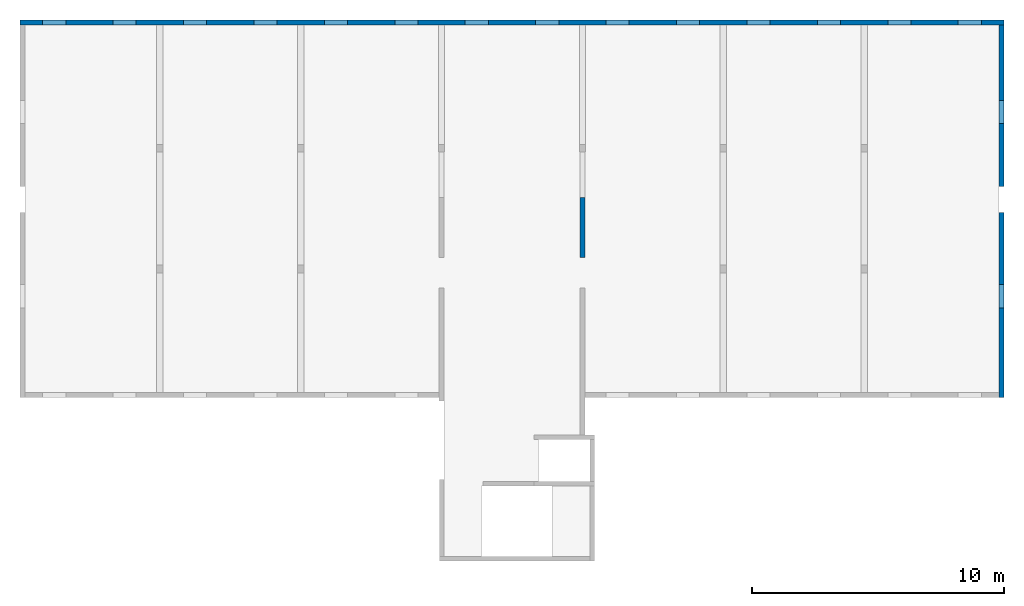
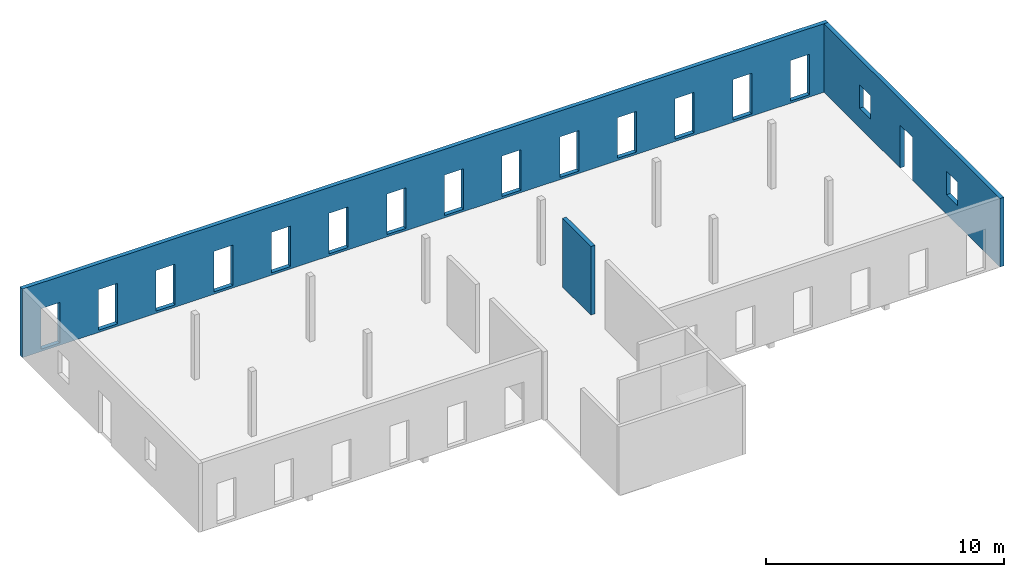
# One storey, part 2 of 2: 3 walls, 17 openings.
"""IFC2X3 building model written with IfcOpenShell, lengths in metres."""

from ifc_helpers import new_model, entity, si_unit, converted_unit, derived_unit, direction, frame, frame_2d, origin, origin_2d_with_axis, place, context, subcontext, project, spatial, rectangle, extrude, material, layer, layer_set, layer_usage, type_object, element, save


model = new_model("IFC2X3")

# Units and contexts
model_context = context("Model", 3, precision=1e-05, world=origin(), true_north=direction((6.12303176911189e-17, 1.0)))
context_of_model = context(None, 3, precision=1e-05, world=origin(), true_north=direction((6.12303176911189e-17, 1.0)))
body_context = subcontext(model_context, "Body", "Model", "MODEL_VIEW")
ifc_project = project(units=[si_unit("LENGTHUNIT", "METRE"), si_unit("AREAUNIT", "SQUARE_METRE"), si_unit("VOLUMEUNIT", "CUBIC_METRE"), converted_unit("PLANEANGLEUNIT", "DEGREE", entity("IfcRatioMeasure", 0.0174532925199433), si_unit("PLANEANGLEUNIT", "RADIAN"), dimensions=[0, 0, 0, 0, 0, 0, 0]), si_unit("MASSUNIT", "GRAM", prefix="KILO"), si_unit("TIMEUNIT", "SECOND"), si_unit("FREQUENCYUNIT", "HERTZ"), si_unit("THERMODYNAMICTEMPERATUREUNIT", "DEGREE_CELSIUS"), derived_unit("THERMALTRANSMITTANCEUNIT", [(si_unit("MASSUNIT", "GRAM", prefix="KILO"), 1), (si_unit("THERMODYNAMICTEMPERATUREUNIT", "KELVIN"), -1), (si_unit("TIMEUNIT", "SECOND"), -3)]), derived_unit("VOLUMETRICFLOWRATEUNIT", [(si_unit("LENGTHUNIT", "METRE"), 3), (si_unit("TIMEUNIT", "SECOND"), -1)]), si_unit("ELECTRICCURRENTUNIT", "AMPERE"), si_unit("ELECTRICVOLTAGEUNIT", "VOLT"), si_unit("POWERUNIT", "WATT"), si_unit("FORCEUNIT", "NEWTON"), si_unit("ILLUMINANCEUNIT", "LUX"), si_unit("LUMINOUSFLUXUNIT", "LUMEN"), si_unit("LUMINOUSINTENSITYUNIT", "CANDELA"), si_unit("PRESSUREUNIT", "PASCAL")], contexts=[model_context, context_of_model])

# Site, building, storey
site_placement = place(None, origin())
site = spatial("IfcSite", under=ifc_project, at=site_placement, Name="Default", CompositionType="ELEMENT")
building_placement = place(site_placement, origin())
building = spatial("IfcBuilding", under=site, at=building_placement, Name="BATIMENT 1", CompositionType="ELEMENT")
storey_placement = place(building_placement, frame((0.0, 0.0, 3.51999999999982)))
storey = spatial("IfcBuildingStorey", under=building, at=storey_placement, Name="Niveau 1", CompositionType="ELEMENT", Elevation=3.51999999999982)

# Wall, openings
ifc_material = material(Name="AEC Béton, C25/30")
ifc_layer = layer(ifc_material, 0.2)
ifc_layer_set = layer_set([ifc_layer], Name="Mur de base:BG VOILE BA 0.20 C25/30")
ifc_layer_usage_1 = layer_usage(ifc_layer_set, "AXIS2", "NEGATIVE", 0.1)
wall_type = type_object("IfcWallType", Name="Mur de base:BG VOILE BA 0.20 C25/30", PredefinedType="STANDARD", material=ifc_layer_set)
wall_1_placement = place(storey_placement, frame((-19.7636530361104, 8.482537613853, 0.0)))
wall_1 = element("IfcWallStandardCase", 1, at=wall_1_placement, inside=storey, type_object=wall_type, material=ifc_layer_usage_1, Name="Mur de base:BG VOILE BA 0.20 C25/30", ObjectType="Mur de base:BG VOILE BA 0.20 C25/30", context=body_context, shape_type="SweptSolid", body=[
    extrude(rectangle(XDim=39.12, YDim=0.2, at=frame_2d((19.56, 3.19189119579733e-16), x_axis=(-1.0, 0.0))), origin(), (0.0, 0.0, 1.0), 3.51999999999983),
])
opening_1_placement = place(wall_1_placement, origin())
element("IfcOpeningElement", 2, at=opening_1_placement, cuts=wall_1, Name="Mur de base:BG VOILE BA 0.20 C25/30", ObjectType="Opening", context=body_context, shape_type="SweptSolid", body=[
    extrude(rectangle(XDim=2.08, YDim=0.919999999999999, at=origin_2d_with_axis()), frame((1.36, -0.1, 1.15999999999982), z_axis=(0.0, 1.0, 0.0), x_axis=(0.0, 0.0, -1.0)), (0.0, 0.0, 1.0), 0.2),
])
opening_2_placement = place(wall_1_placement, origin())
element("IfcOpeningElement", 3, at=opening_2_placement, cuts=wall_1, Name="Mur de base:BG VOILE BA 0.20 C25/30", ObjectType="Opening", context=body_context, shape_type="SweptSolid", body=[
    extrude(rectangle(XDim=2.08, YDim=0.919999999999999, at=origin_2d_with_axis()), frame((4.16, -0.1, 1.15999999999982), z_axis=(0.0, 1.0, 0.0), x_axis=(0.0, 0.0, -1.0)), (0.0, 0.0, 1.0), 0.2),
])
opening_3_placement = place(wall_1_placement, origin())
element("IfcOpeningElement", 4, at=opening_3_placement, cuts=wall_1, Name="Mur de base:BG VOILE BA 0.20 C25/30", ObjectType="Opening", context=body_context, shape_type="SweptSolid", body=[
    extrude(rectangle(XDim=2.08, YDim=0.919999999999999, at=origin_2d_with_axis()), frame((6.95999999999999, -0.1, 1.15999999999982), z_axis=(0.0, 1.0, 0.0), x_axis=(0.0, 0.0, -1.0)), (0.0, 0.0, 1.0), 0.2),
])
opening_4_placement = place(wall_1_placement, origin())
element("IfcOpeningElement", 5, at=opening_4_placement, cuts=wall_1, Name="Mur de base:BG VOILE BA 0.20 C25/30", ObjectType="Opening", context=body_context, shape_type="SweptSolid", body=[
    extrude(rectangle(XDim=2.08, YDim=0.919999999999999, at=origin_2d_with_axis()), frame((9.75999999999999, -0.1, 1.15999999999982), z_axis=(0.0, 1.0, 0.0), x_axis=(0.0, 0.0, -1.0)), (0.0, 0.0, 1.0), 0.2),
])
opening_5_placement = place(wall_1_placement, origin())
element("IfcOpeningElement", 6, at=opening_5_placement, cuts=wall_1, Name="Mur de base:BG VOILE BA 0.20 C25/30", ObjectType="Opening", context=body_context, shape_type="SweptSolid", body=[
    extrude(rectangle(XDim=2.08, YDim=0.919999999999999, at=origin_2d_with_axis()), frame((12.56, -0.0999999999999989, 1.15999999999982), z_axis=(0.0, 1.0, 0.0), x_axis=(0.0, 0.0, -1.0)), (0.0, 0.0, 1.0), 0.2),
])
opening_6_placement = place(wall_1_placement, origin())
element("IfcOpeningElement", 7, at=opening_6_placement, cuts=wall_1, Name="Mur de base:BG VOILE BA 0.20 C25/30", ObjectType="Opening", context=body_context, shape_type="SweptSolid", body=[
    extrude(rectangle(XDim=2.08, YDim=0.919999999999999, at=origin_2d_with_axis()), frame((15.36, -0.0999999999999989, 1.15999999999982), z_axis=(0.0, 1.0, 0.0), x_axis=(0.0, 0.0, -1.0)), (0.0, 0.0, 1.0), 0.2),
])
opening_7_placement = place(wall_1_placement, origin())
element("IfcOpeningElement", 8, at=opening_7_placement, cuts=wall_1, Name="Mur de base:BG VOILE BA 0.20 C25/30", ObjectType="Opening", context=body_context, shape_type="SweptSolid", body=[
    extrude(rectangle(XDim=2.08, YDim=0.919999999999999, at=origin_2d_with_axis()), frame((18.16, -0.0999999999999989, 1.15999999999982), z_axis=(0.0, 1.0, 0.0), x_axis=(0.0, 0.0, -1.0)), (0.0, 0.0, 1.0), 0.2),
])
opening_8_placement = place(wall_1_placement, origin())
element("IfcOpeningElement", 9, at=opening_8_placement, cuts=wall_1, Name="Mur de base:BG VOILE BA 0.20 C25/30", ObjectType="Opening", context=body_context, shape_type="SweptSolid", body=[
    extrude(rectangle(XDim=2.08, YDim=0.919999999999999, at=frame_2d((0.0, -8.32667268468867e-17), x_axis=(1.0, 0.0))), frame((20.96, -0.0999999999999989, 1.15999999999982), z_axis=(0.0, 1.0, 0.0), x_axis=(0.0, 0.0, -1.0)), (0.0, 0.0, 1.0), 0.2),
])
opening_9_placement = place(wall_1_placement, origin())
element("IfcOpeningElement", 10, at=opening_9_placement, cuts=wall_1, Name="Mur de base:BG VOILE BA 0.20 C25/30", ObjectType="Opening", context=body_context, shape_type="SweptSolid", body=[
    extrude(rectangle(XDim=2.08, YDim=0.919999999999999, at=origin_2d_with_axis()), frame((23.76, -0.0999999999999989, 1.15999999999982), z_axis=(0.0, 1.0, 0.0), x_axis=(0.0, 0.0, -1.0)), (0.0, 0.0, 1.0), 0.2),
])
opening_10_placement = place(wall_1_placement, origin())
element("IfcOpeningElement", 11, at=opening_10_placement, cuts=wall_1, Name="Mur de base:BG VOILE BA 0.20 C25/30", ObjectType="Opening", context=body_context, shape_type="SweptSolid", body=[
    extrude(rectangle(XDim=2.08, YDim=0.919999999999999, at=origin_2d_with_axis()), frame((26.56, -0.0999999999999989, 1.15999999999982), z_axis=(0.0, 1.0, 0.0), x_axis=(0.0, 0.0, -1.0)), (0.0, 0.0, 1.0), 0.2),
])
opening_11_placement = place(wall_1_placement, origin())
element("IfcOpeningElement", 12, at=opening_11_placement, cuts=wall_1, Name="Mur de base:BG VOILE BA 0.20 C25/30", ObjectType="Opening", context=body_context, shape_type="SweptSolid", body=[
    extrude(rectangle(XDim=2.08, YDim=0.919999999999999, at=origin_2d_with_axis()), frame((29.36, -0.1, 1.15999999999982), z_axis=(0.0, 1.0, 0.0), x_axis=(0.0, 0.0, -1.0)), (0.0, 0.0, 1.0), 0.2),
])
opening_12_placement = place(wall_1_placement, origin())
element("IfcOpeningElement", 13, at=opening_12_placement, cuts=wall_1, Name="Mur de base:BG VOILE BA 0.20 C25/30", ObjectType="Opening", context=body_context, shape_type="SweptSolid", body=[
    extrude(rectangle(XDim=2.08, YDim=0.919999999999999, at=origin_2d_with_axis()), frame((32.16, -0.1, 1.15999999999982), z_axis=(0.0, 1.0, 0.0), x_axis=(0.0, 0.0, -1.0)), (0.0, 0.0, 1.0), 0.2),
])
opening_13_placement = place(wall_1_placement, origin())
element("IfcOpeningElement", 14, at=opening_13_placement, cuts=wall_1, Name="Mur de base:BG VOILE BA 0.20 C25/30", ObjectType="Opening", context=body_context, shape_type="SweptSolid", body=[
    extrude(rectangle(XDim=2.08, YDim=0.919999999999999, at=origin_2d_with_axis()), frame((34.96, -0.1, 1.15999999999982), z_axis=(0.0, 1.0, 0.0), x_axis=(0.0, 0.0, -1.0)), (0.0, 0.0, 1.0), 0.2),
])
opening_14_placement = place(wall_1_placement, origin())
element("IfcOpeningElement", 15, at=opening_14_placement, cuts=wall_1, Name="Mur de base:BG VOILE BA 0.20 C25/30", ObjectType="Opening", context=body_context, shape_type="SweptSolid", body=[
    extrude(rectangle(XDim=2.08, YDim=0.919999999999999, at=origin_2d_with_axis()), frame((37.76, -0.1, 1.15999999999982), z_axis=(0.0, 1.0, 0.0), x_axis=(0.0, 0.0, -1.0)), (0.0, 0.0, 1.0), 0.2),
])

ifc_layer_usage_2 = layer_usage(ifc_layer_set, "AXIS2", "NEGATIVE", 0.1)
wall_2_placement = place(storey_placement, frame((19.2563469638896, 8.38253761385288, 0.0), z_axis=(0.0, 0.0, 1.0), x_axis=(0.0, -1.0, 0.0)))
wall_2 = element("IfcWallStandardCase", 16, at=wall_2_placement, inside=storey, type_object=wall_type, material=ifc_layer_usage_2, Name="Mur de base:BG VOILE BA 0.20 C25/30", ObjectType="Mur de base:BG VOILE BA 0.20 C25/30", context=body_context, shape_type="SweptSolid", body=[
    extrude(rectangle(XDim=14.8, YDim=0.199999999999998, at=frame_2d((7.4, 0.0), x_axis=(-1.0, 0.0))), origin(), (0.0, 0.0, 1.0), 3.51999999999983),
])
opening_15_placement = place(wall_2_placement, origin())
element("IfcOpeningElement", 17, at=opening_15_placement, cuts=wall_2, Name="Mur de base:BG VOILE BA 0.20 C25/30", ObjectType="Opening", context=body_context, shape_type="SweptSolid", body=[
    extrude(rectangle(XDim=2.2, YDim=1.05, at=origin_2d_with_axis()), frame((6.93600000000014, -0.100000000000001, 1.09999999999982), z_axis=(0.0, 1.0, 0.0), x_axis=(0.0, 0.0, -1.0)), (0.0, 0.0, 1.0), 0.2),
])
opening_16_placement = place(wall_2_placement, origin())
element("IfcOpeningElement", 18, at=opening_16_placement, cuts=wall_2, Name="Mur de base:BG VOILE BA 0.20 C25/30", ObjectType="Opening", context=body_context, shape_type="SweptSolid", body=[
    extrude(rectangle(XDim=1.2, YDim=0.919999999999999, at=origin_2d_with_axis()), frame((10.78, -0.0999999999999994, 1.59999999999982), z_axis=(0.0, 1.0, 0.0), x_axis=(0.0, 0.0, -1.0)), (0.0, 0.0, 1.0), 0.199999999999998),
])
opening_17_placement = place(wall_2_placement, origin())
element("IfcOpeningElement", 19, at=opening_17_placement, cuts=wall_2, Name="Mur de base:BG VOILE BA 0.20 C25/30", ObjectType="Opening", context=body_context, shape_type="SweptSolid", body=[
    extrude(rectangle(XDim=1.2, YDim=0.92, at=frame_2d((0.0, 2.77555756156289e-16), x_axis=(1.0, 0.0))), frame((3.45600000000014, -0.0999999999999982, 1.59999999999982), z_axis=(0.0, 1.0, 0.0), x_axis=(0.0, 0.0, -1.0)), (0.0, 0.0, 1.0), 0.199999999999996),
])

# Wall
ifc_layer_usage_3 = layer_usage(ifc_layer_set, "AXIS2", "NEGATIVE", 0.1)
wall_3_placement = place(storey_placement, frame((2.59634696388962, -0.867462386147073, 0.0), z_axis=(0.0, 0.0, 1.0), x_axis=(0.0, 1.0, 0.0)))
element("IfcWallStandardCase", 20, at=wall_3_placement, inside=storey, type_object=wall_type, material=ifc_layer_usage_3, Name="Mur de base:BG VOILE BA 0.20 C25/30", ObjectType="Mur de base:BG VOILE BA 0.20 C25/30", context=body_context, shape_type="SweptSolid", body=[
    extrude(rectangle(XDim=2.40000000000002, YDim=0.2, at=frame_2d((1.20000000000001, 0.0), x_axis=(-1.0, 0.0))), origin(), (0.0, 0.0, 1.0), 3.51999999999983),
])

save(model, "model.ifc")
